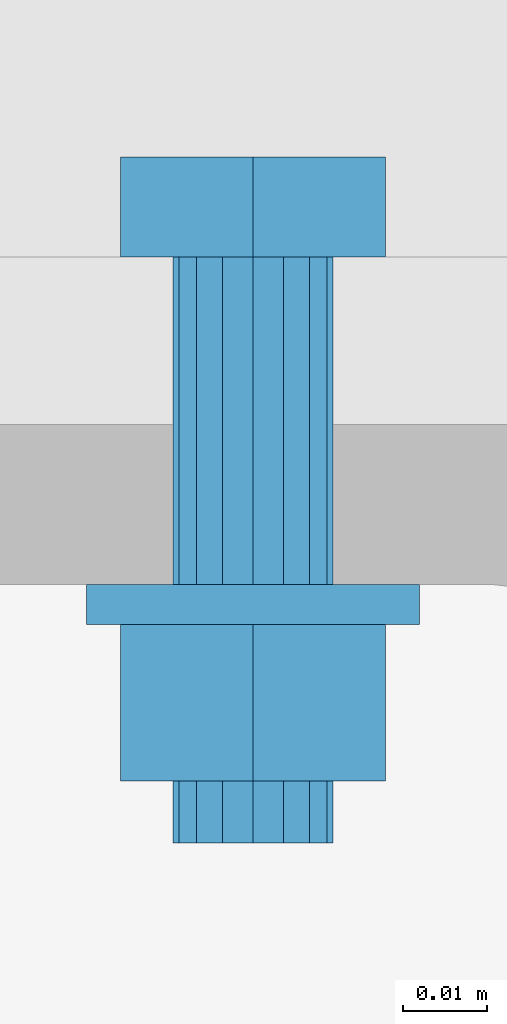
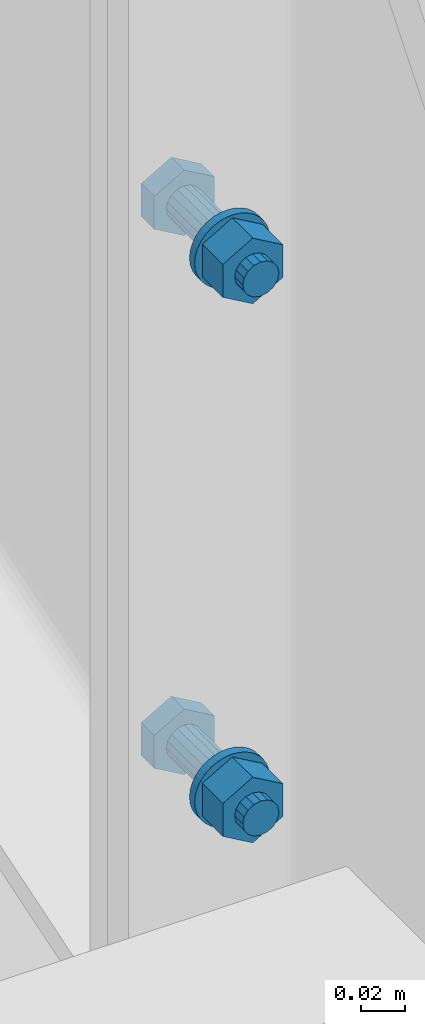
# Not in any storey, part 22 of 51: 2 mechanical fasteners.
"""IFC4 model written with IfcOpenShell, lengths in feet."""

from ifc_helpers import new_model, entity, si_unit, converted_unit, direction, origin, origin_with_axes, place, context, project, spatial, faceted_brep, element, save


model = new_model("IFC4")

# Units and contexts
model_context = context("Model", 3, precision=0.0001, world=origin(), true_north=direction((6.123233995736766e-17, 1.0)))
ifc_project = project(units=[converted_unit("LENGTHUNIT", "FOOT", entity("IfcLengthMeasure", 0.3048), si_unit("LENGTHUNIT", "METRE"), dimensions=[1, 0, 0, 0, 0, 0, 0]), converted_unit("AREAUNIT", "SQUARE INCH", entity("IfcAreaMeasure", 0.0006451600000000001), si_unit("AREAUNIT", "SQUARE_METRE"), dimensions=[2, 0, 0, 0, 0, 0, 0]), converted_unit("PLANEANGLEUNIT", "DEGREE", entity("IfcPlaneAngleMeasure", 0.017453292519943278), si_unit("PLANEANGLEUNIT", "RADIAN"), dimensions=[0, 0, 0, 0, 0, 0, 0]), si_unit("VOLUMEUNIT", "CUBIC_METRE")], contexts=[model_context])

# Site
site_placement = place(None, origin())
site = spatial("IfcSite", under=ifc_project, at=site_placement, Name="Default", CompositionType="ELEMENT")

# Mechanical fasteners
mechanical_fastener_1_placement = place(site_placement, origin_with_axes())
element("IfcMechanicalFastener", 1, at=mechanical_fastener_1_placement, inside=site, ObjectType="Bolt#5", NominalDiameter=0.0625, NominalLength=0.22916666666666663, context=model_context, shape_type="Brep", body=[
    faceted_brep([(60.26863054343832, 6.28730066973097, 17.178057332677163), (60.26863054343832, 6.326363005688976, 17.178057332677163), (60.320501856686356, 6.326363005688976, 17.148109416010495), (60.320501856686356, 6.28730066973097, 17.148109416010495), (60.37237316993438, 6.326363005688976, 17.178057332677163), (60.37237316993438, 6.28730066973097, 17.178057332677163), (60.37237316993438, 6.326363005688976, 17.2379531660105), (60.37237316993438, 6.28730066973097, 17.2379531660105), (60.320501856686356, 6.326363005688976, 17.267901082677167), (60.320501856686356, 6.28730066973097, 17.267901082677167), (60.26863054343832, 6.326363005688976, 17.2379531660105), (60.26863054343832, 6.28730066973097, 17.2379531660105)], [[[0, 1, 2, 3]], [[3, 2, 4, 5]], [[5, 4, 6, 7]], [[7, 6, 8, 9]], [[9, 8, 10, 11]], [[11, 10, 1, 0]], [[4, 2, 1, 10, 8, 6]], [[0, 3, 5, 7, 9, 11]]]),
    faceted_brep([(60.35175185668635, 6.28730066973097, 17.20800524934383), (60.35175185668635, 6.159183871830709, 17.20800524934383), (60.34937309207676, 6.159183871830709, 17.196046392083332), (60.34937309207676, 6.28730066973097, 17.196046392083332), (60.34259894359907, 6.159183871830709, 17.185908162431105), (60.34259894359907, 6.28730066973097, 17.185908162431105), (60.332460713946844, 6.159183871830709, 17.17913401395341), (60.332460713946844, 6.28730066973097, 17.17913401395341), (60.320501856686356, 6.159183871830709, 17.17675524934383), (60.320501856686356, 6.28730066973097, 17.17675524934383), (60.30854299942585, 6.159183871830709, 17.17913401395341), (60.30854299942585, 6.28730066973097, 17.17913401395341), (60.298404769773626, 6.159183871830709, 17.185908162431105), (60.298404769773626, 6.28730066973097, 17.185908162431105), (60.29163062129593, 6.159183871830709, 17.196046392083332), (60.29163062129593, 6.28730066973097, 17.196046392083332), (60.28925185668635, 6.159183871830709, 17.20800524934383), (60.28925185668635, 6.28730066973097, 17.20800524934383), (60.29163062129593, 6.159183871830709, 17.21996410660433), (60.29163062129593, 6.28730066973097, 17.21996410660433), (60.298404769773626, 6.159183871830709, 17.23010233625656), (60.298404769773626, 6.28730066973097, 17.23010233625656), (60.30854299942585, 6.159183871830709, 17.236876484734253), (60.30854299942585, 6.28730066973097, 17.236876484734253), (60.320501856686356, 6.159183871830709, 17.23925524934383), (60.320501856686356, 6.28730066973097, 17.23925524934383), (60.332460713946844, 6.159183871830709, 17.236876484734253), (60.332460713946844, 6.28730066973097, 17.236876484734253), (60.34259894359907, 6.159183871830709, 17.23010233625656), (60.34259894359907, 6.28730066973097, 17.23010233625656), (60.34937309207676, 6.159183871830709, 17.21996410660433), (60.34937309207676, 6.28730066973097, 17.21996410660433)], [[[0, 1, 2, 3]], [[3, 2, 4, 5]], [[5, 4, 6, 7]], [[7, 6, 8, 9]], [[9, 8, 10, 11]], [[11, 10, 12, 13]], [[13, 12, 14, 15]], [[15, 14, 16, 17]], [[17, 16, 18, 19]], [[19, 18, 20, 21]], [[21, 20, 22, 23]], [[23, 22, 24, 25]], [[25, 24, 26, 27]], [[27, 26, 28, 29]], [[29, 28, 30, 31]], [[31, 30, 1, 0]], [[0, 3, 5, 7, 9, 11, 13, 15, 17, 19, 21, 23, 25, 27, 29, 31]], [[1, 30, 28, 26, 24, 22, 20, 18, 16, 14, 12, 10, 8, 6, 4, 2]]]),
    faceted_brep([(60.38560602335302, 6.159183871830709, 17.20800524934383), (60.38560602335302, 6.143558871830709, 17.20800524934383), (60.38435506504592, 6.143558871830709, 17.195304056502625), (60.38435506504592, 6.159183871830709, 17.195304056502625), (60.38065026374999, 6.143558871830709, 17.183090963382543), (60.38065026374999, 6.159183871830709, 17.183090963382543), (60.37463399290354, 6.143558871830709, 17.171835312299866), (60.37463399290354, 6.159183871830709, 17.171835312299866), (60.36653745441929, 6.143558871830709, 17.161969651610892), (60.36653745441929, 6.159183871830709, 17.161969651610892), (60.3566717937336, 6.143558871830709, 17.15387311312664), (60.3566717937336, 6.159183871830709, 17.15387311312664), (60.345416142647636, 6.143558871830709, 17.147856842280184), (60.345416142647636, 6.159183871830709, 17.147856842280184), (60.333203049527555, 6.143558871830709, 17.144152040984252), (60.333203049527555, 6.159183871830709, 17.144152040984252), (60.320501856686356, 6.143558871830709, 17.142901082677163), (60.320501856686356, 6.159183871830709, 17.142901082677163), (60.307800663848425, 6.143558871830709, 17.144152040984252), (60.307800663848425, 6.159183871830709, 17.144152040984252), (60.29558757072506, 6.143558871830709, 17.147856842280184), (60.29558757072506, 6.159183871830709, 17.147856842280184), (60.28433191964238, 6.143558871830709, 17.15387311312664), (60.28433191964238, 6.159183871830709, 17.15387311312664), (60.27446625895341, 6.143558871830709, 17.161969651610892), (60.27446625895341, 6.159183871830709, 17.161969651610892), (60.26636972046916, 6.143558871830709, 17.171835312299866), (60.26636972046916, 6.159183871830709, 17.171835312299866), (60.260353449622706, 6.143558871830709, 17.183090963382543), (60.260353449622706, 6.159183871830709, 17.183090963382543), (60.256648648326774, 6.143558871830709, 17.195304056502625), (60.256648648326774, 6.159183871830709, 17.195304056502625), (60.255397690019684, 6.143558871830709, 17.20800524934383), (60.255397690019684, 6.159183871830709, 17.20800524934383), (60.256648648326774, 6.143558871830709, 17.220706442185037), (60.256648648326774, 6.159183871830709, 17.220706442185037), (60.260353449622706, 6.143558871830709, 17.23291953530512), (60.260353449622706, 6.159183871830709, 17.23291953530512), (60.26636972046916, 6.143558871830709, 17.244175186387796), (60.26636972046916, 6.159183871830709, 17.244175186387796), (60.27446625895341, 6.143558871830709, 17.254040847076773), (60.27446625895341, 6.159183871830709, 17.254040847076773), (60.28433191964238, 6.143558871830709, 17.262137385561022), (60.28433191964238, 6.159183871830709, 17.262137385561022), (60.29558757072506, 6.143558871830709, 17.268153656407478), (60.29558757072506, 6.159183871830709, 17.268153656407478), (60.307800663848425, 6.143558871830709, 17.271858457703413), (60.307800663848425, 6.159183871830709, 17.271858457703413), (60.320501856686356, 6.143558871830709, 17.2731094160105), (60.320501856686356, 6.159183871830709, 17.2731094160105), (60.333203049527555, 6.143558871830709, 17.271858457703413), (60.333203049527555, 6.159183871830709, 17.271858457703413), (60.345416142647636, 6.143558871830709, 17.268153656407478), (60.345416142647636, 6.159183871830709, 17.268153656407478), (60.3566717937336, 6.143558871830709, 17.262137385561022), (60.3566717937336, 6.159183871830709, 17.262137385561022), (60.36653745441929, 6.143558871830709, 17.254040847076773), (60.36653745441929, 6.159183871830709, 17.254040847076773), (60.37463399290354, 6.143558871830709, 17.244175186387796), (60.37463399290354, 6.159183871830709, 17.244175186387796), (60.38065026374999, 6.143558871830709, 17.23291953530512), (60.38065026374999, 6.159183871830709, 17.23291953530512), (60.38435506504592, 6.143558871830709, 17.220706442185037), (60.38435506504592, 6.159183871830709, 17.220706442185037)], [[[0, 1, 2, 3]], [[3, 2, 4, 5]], [[5, 4, 6, 7]], [[7, 6, 8, 9]], [[9, 8, 10, 11]], [[11, 10, 12, 13]], [[13, 12, 14, 15]], [[15, 14, 16, 17]], [[17, 16, 18, 19]], [[19, 18, 20, 21]], [[21, 20, 22, 23]], [[23, 22, 24, 25]], [[25, 24, 26, 27]], [[27, 26, 28, 29]], [[29, 28, 30, 31]], [[31, 30, 32, 33]], [[33, 32, 34, 35]], [[35, 34, 36, 37]], [[37, 36, 38, 39]], [[39, 38, 40, 41]], [[41, 40, 42, 43]], [[43, 42, 44, 45]], [[45, 44, 46, 47]], [[47, 46, 48, 49]], [[49, 48, 50, 51]], [[51, 50, 52, 53]], [[53, 52, 54, 55]], [[55, 54, 56, 57]], [[57, 56, 58, 59]], [[59, 58, 60, 61]], [[61, 60, 62, 63]], [[63, 62, 1, 0]], [[0, 3, 5, 7, 9, 11, 13, 15, 17, 19, 21, 23, 25, 27, 29, 31, 33, 35, 37, 39, 41, 43, 45, 47, 49, 51, 53, 55, 57, 59, 61, 63]], [[1, 62, 60, 58, 56, 54, 52, 50, 48, 46, 44, 42, 40, 38, 36, 34, 32, 30, 28, 26, 24, 22, 20, 18, 16, 14, 12, 10, 8, 6, 4, 2]]]),
    faceted_brep([(60.26863054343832, 6.082361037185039, 17.178057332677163), (60.26863054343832, 6.143558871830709, 17.178057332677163), (60.320501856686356, 6.143558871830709, 17.148109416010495), (60.320501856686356, 6.082361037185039, 17.148109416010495), (60.37237316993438, 6.143558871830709, 17.178057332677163), (60.37237316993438, 6.082361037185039, 17.178057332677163), (60.37237316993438, 6.143558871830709, 17.2379531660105), (60.37237316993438, 6.082361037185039, 17.2379531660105), (60.320501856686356, 6.143558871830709, 17.267901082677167), (60.320501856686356, 6.082361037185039, 17.267901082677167), (60.26863054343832, 6.143558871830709, 17.2379531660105), (60.26863054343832, 6.082361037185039, 17.2379531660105)], [[[0, 1, 2, 3]], [[3, 2, 4, 5]], [[5, 4, 6, 7]], [[7, 6, 8, 9]], [[9, 8, 10, 11]], [[11, 10, 1, 0]], [[4, 2, 1, 10, 8, 6]], [[0, 3, 5, 7, 9, 11]]]),
    faceted_brep([(60.35175185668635, 6.082361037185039, 17.20800524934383), (60.35175185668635, 6.058134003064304, 17.20800524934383), (60.34937309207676, 6.058134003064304, 17.196046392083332), (60.34937309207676, 6.082361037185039, 17.196046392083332), (60.34259894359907, 6.058134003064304, 17.185908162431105), (60.34259894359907, 6.082361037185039, 17.185908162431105), (60.332460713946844, 6.058134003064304, 17.17913401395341), (60.332460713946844, 6.082361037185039, 17.17913401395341), (60.320501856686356, 6.058134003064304, 17.17675524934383), (60.320501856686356, 6.082361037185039, 17.17675524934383), (60.30854299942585, 6.058134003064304, 17.17913401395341), (60.30854299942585, 6.082361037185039, 17.17913401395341), (60.298404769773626, 6.058134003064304, 17.185908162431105), (60.298404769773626, 6.082361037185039, 17.185908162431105), (60.29163062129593, 6.058134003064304, 17.196046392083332), (60.29163062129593, 6.082361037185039, 17.196046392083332), (60.28925185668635, 6.058134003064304, 17.20800524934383), (60.28925185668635, 6.082361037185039, 17.20800524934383), (60.29163062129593, 6.058134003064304, 17.21996410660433), (60.29163062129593, 6.082361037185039, 17.21996410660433), (60.298404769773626, 6.058134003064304, 17.23010233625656), (60.298404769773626, 6.082361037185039, 17.23010233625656), (60.30854299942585, 6.058134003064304, 17.236876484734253), (60.30854299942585, 6.082361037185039, 17.236876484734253), (60.320501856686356, 6.058134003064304, 17.23925524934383), (60.320501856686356, 6.082361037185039, 17.23925524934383), (60.332460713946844, 6.058134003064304, 17.236876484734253), (60.332460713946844, 6.082361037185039, 17.236876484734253), (60.34259894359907, 6.058134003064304, 17.23010233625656), (60.34259894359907, 6.082361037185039, 17.23010233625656), (60.34937309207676, 6.058134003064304, 17.21996410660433), (60.34937309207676, 6.082361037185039, 17.21996410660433)], [[[0, 1, 2, 3]], [[3, 2, 4, 5]], [[5, 4, 6, 7]], [[7, 6, 8, 9]], [[9, 8, 10, 11]], [[11, 10, 12, 13]], [[13, 12, 14, 15]], [[15, 14, 16, 17]], [[17, 16, 18, 19]], [[19, 18, 20, 21]], [[21, 20, 22, 23]], [[23, 22, 24, 25]], [[25, 24, 26, 27]], [[27, 26, 28, 29]], [[29, 28, 30, 31]], [[31, 30, 1, 0]], [[0, 3, 5, 7, 9, 11, 13, 15, 17, 19, 21, 23, 25, 27, 29, 31]], [[1, 30, 28, 26, 24, 22, 20, 18, 16, 14, 12, 10, 8, 6, 4, 2]]]),
])
mechanical_fastener_2_placement = place(site_placement, origin_with_axes())
element("IfcMechanicalFastener", 2, at=mechanical_fastener_2_placement, inside=site, ObjectType="Bolt#6", NominalDiameter=0.0625, NominalLength=0.22916666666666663, context=model_context, shape_type="Brep", body=[
    faceted_brep([(60.26863054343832, 6.28730066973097, 16.193805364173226), (60.26863054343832, 6.326363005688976, 16.193805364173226), (60.320501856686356, 6.326363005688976, 16.163857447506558), (60.320501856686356, 6.28730066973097, 16.163857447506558), (60.37237316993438, 6.326363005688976, 16.193805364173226), (60.37237316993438, 6.28730066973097, 16.193805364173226), (60.37237316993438, 6.326363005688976, 16.25370119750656), (60.37237316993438, 6.28730066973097, 16.25370119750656), (60.320501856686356, 6.326363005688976, 16.28364911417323), (60.320501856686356, 6.28730066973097, 16.28364911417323), (60.26863054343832, 6.326363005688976, 16.25370119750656), (60.26863054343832, 6.28730066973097, 16.25370119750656)], [[[0, 1, 2, 3]], [[3, 2, 4, 5]], [[5, 4, 6, 7]], [[7, 6, 8, 9]], [[9, 8, 10, 11]], [[11, 10, 1, 0]], [[4, 2, 1, 10, 8, 6]], [[0, 3, 5, 7, 9, 11]]]),
    faceted_brep([(60.35175185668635, 6.28730066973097, 16.223753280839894), (60.35175185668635, 6.159183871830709, 16.223753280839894), (60.34937309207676, 6.159183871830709, 16.211794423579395), (60.34937309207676, 6.28730066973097, 16.211794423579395), (60.34259894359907, 6.159183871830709, 16.201656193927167), (60.34259894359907, 6.28730066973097, 16.201656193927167), (60.332460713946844, 6.159183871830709, 16.19488204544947), (60.332460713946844, 6.28730066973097, 16.19488204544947), (60.320501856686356, 6.159183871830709, 16.192503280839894), (60.320501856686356, 6.28730066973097, 16.192503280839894), (60.30854299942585, 6.159183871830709, 16.19488204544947), (60.30854299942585, 6.28730066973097, 16.19488204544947), (60.298404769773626, 6.159183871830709, 16.201656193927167), (60.298404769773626, 6.28730066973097, 16.201656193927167), (60.29163062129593, 6.159183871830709, 16.211794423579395), (60.29163062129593, 6.28730066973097, 16.211794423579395), (60.28925185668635, 6.159183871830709, 16.223753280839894), (60.28925185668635, 6.28730066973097, 16.223753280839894), (60.29163062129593, 6.159183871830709, 16.235712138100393), (60.29163062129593, 6.28730066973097, 16.235712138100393), (60.298404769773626, 6.159183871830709, 16.245850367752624), (60.298404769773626, 6.28730066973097, 16.245850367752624), (60.30854299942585, 6.159183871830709, 16.252624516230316), (60.30854299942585, 6.28730066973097, 16.252624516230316), (60.320501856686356, 6.159183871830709, 16.255003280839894), (60.320501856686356, 6.28730066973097, 16.255003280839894), (60.332460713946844, 6.159183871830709, 16.252624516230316), (60.332460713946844, 6.28730066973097, 16.252624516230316), (60.34259894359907, 6.159183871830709, 16.245850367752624), (60.34259894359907, 6.28730066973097, 16.245850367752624), (60.34937309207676, 6.159183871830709, 16.235712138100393), (60.34937309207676, 6.28730066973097, 16.235712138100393)], [[[0, 1, 2, 3]], [[3, 2, 4, 5]], [[5, 4, 6, 7]], [[7, 6, 8, 9]], [[9, 8, 10, 11]], [[11, 10, 12, 13]], [[13, 12, 14, 15]], [[15, 14, 16, 17]], [[17, 16, 18, 19]], [[19, 18, 20, 21]], [[21, 20, 22, 23]], [[23, 22, 24, 25]], [[25, 24, 26, 27]], [[27, 26, 28, 29]], [[29, 28, 30, 31]], [[31, 30, 1, 0]], [[0, 3, 5, 7, 9, 11, 13, 15, 17, 19, 21, 23, 25, 27, 29, 31]], [[1, 30, 28, 26, 24, 22, 20, 18, 16, 14, 12, 10, 8, 6, 4, 2]]]),
    faceted_brep([(60.38560602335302, 6.159183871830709, 16.223753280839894), (60.38560602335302, 6.143558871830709, 16.223753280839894), (60.38435506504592, 6.143558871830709, 16.211052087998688), (60.38435506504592, 6.159183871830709, 16.211052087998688), (60.38065026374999, 6.143558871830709, 16.198838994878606), (60.38065026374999, 6.159183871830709, 16.198838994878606), (60.37463399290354, 6.143558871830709, 16.18758334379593), (60.37463399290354, 6.159183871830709, 16.18758334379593), (60.36653745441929, 6.143558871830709, 16.177717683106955), (60.36653745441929, 6.159183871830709, 16.177717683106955), (60.3566717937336, 6.143558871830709, 16.169621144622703), (60.3566717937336, 6.159183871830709, 16.169621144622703), (60.345416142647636, 6.143558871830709, 16.163604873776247), (60.345416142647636, 6.159183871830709, 16.163604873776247), (60.333203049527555, 6.143558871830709, 16.159900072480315), (60.333203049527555, 6.159183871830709, 16.159900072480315), (60.320501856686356, 6.143558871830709, 16.158649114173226), (60.320501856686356, 6.159183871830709, 16.158649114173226), (60.307800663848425, 6.143558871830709, 16.159900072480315), (60.307800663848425, 6.159183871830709, 16.159900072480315), (60.29558757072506, 6.143558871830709, 16.163604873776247), (60.29558757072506, 6.159183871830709, 16.163604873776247), (60.28433191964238, 6.143558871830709, 16.169621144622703), (60.28433191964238, 6.159183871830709, 16.169621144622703), (60.27446625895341, 6.143558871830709, 16.177717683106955), (60.27446625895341, 6.159183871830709, 16.177717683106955), (60.26636972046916, 6.143558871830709, 16.18758334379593), (60.26636972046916, 6.159183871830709, 16.18758334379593), (60.260353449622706, 6.143558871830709, 16.198838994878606), (60.260353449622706, 6.159183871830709, 16.198838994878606), (60.256648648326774, 6.143558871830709, 16.211052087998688), (60.256648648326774, 6.159183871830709, 16.211052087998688), (60.255397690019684, 6.143558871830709, 16.223753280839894), (60.255397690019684, 6.159183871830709, 16.223753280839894), (60.256648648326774, 6.143558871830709, 16.2364544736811), (60.256648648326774, 6.159183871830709, 16.2364544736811), (60.260353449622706, 6.143558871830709, 16.24866756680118), (60.260353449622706, 6.159183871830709, 16.24866756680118), (60.26636972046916, 6.143558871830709, 16.25992321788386), (60.26636972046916, 6.159183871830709, 16.25992321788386), (60.27446625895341, 6.143558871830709, 16.269788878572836), (60.27446625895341, 6.159183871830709, 16.269788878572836), (60.28433191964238, 6.143558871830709, 16.277885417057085), (60.28433191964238, 6.159183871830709, 16.277885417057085), (60.29558757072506, 6.143558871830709, 16.28390168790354), (60.29558757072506, 6.159183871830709, 16.28390168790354), (60.307800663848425, 6.143558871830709, 16.287606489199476), (60.307800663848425, 6.159183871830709, 16.287606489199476), (60.320501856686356, 6.143558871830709, 16.28885744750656), (60.320501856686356, 6.159183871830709, 16.28885744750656), (60.333203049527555, 6.143558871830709, 16.287606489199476), (60.333203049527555, 6.159183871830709, 16.287606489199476), (60.345416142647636, 6.143558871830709, 16.28390168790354), (60.345416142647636, 6.159183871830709, 16.28390168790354), (60.3566717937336, 6.143558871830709, 16.277885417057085), (60.3566717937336, 6.159183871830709, 16.277885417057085), (60.36653745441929, 6.143558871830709, 16.269788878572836), (60.36653745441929, 6.159183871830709, 16.269788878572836), (60.37463399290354, 6.143558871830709, 16.25992321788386), (60.37463399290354, 6.159183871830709, 16.25992321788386), (60.38065026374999, 6.143558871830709, 16.24866756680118), (60.38065026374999, 6.159183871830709, 16.24866756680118), (60.38435506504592, 6.143558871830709, 16.2364544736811), (60.38435506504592, 6.159183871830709, 16.2364544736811)], [[[0, 1, 2, 3]], [[3, 2, 4, 5]], [[5, 4, 6, 7]], [[7, 6, 8, 9]], [[9, 8, 10, 11]], [[11, 10, 12, 13]], [[13, 12, 14, 15]], [[15, 14, 16, 17]], [[17, 16, 18, 19]], [[19, 18, 20, 21]], [[21, 20, 22, 23]], [[23, 22, 24, 25]], [[25, 24, 26, 27]], [[27, 26, 28, 29]], [[29, 28, 30, 31]], [[31, 30, 32, 33]], [[33, 32, 34, 35]], [[35, 34, 36, 37]], [[37, 36, 38, 39]], [[39, 38, 40, 41]], [[41, 40, 42, 43]], [[43, 42, 44, 45]], [[45, 44, 46, 47]], [[47, 46, 48, 49]], [[49, 48, 50, 51]], [[51, 50, 52, 53]], [[53, 52, 54, 55]], [[55, 54, 56, 57]], [[57, 56, 58, 59]], [[59, 58, 60, 61]], [[61, 60, 62, 63]], [[63, 62, 1, 0]], [[0, 3, 5, 7, 9, 11, 13, 15, 17, 19, 21, 23, 25, 27, 29, 31, 33, 35, 37, 39, 41, 43, 45, 47, 49, 51, 53, 55, 57, 59, 61, 63]], [[1, 62, 60, 58, 56, 54, 52, 50, 48, 46, 44, 42, 40, 38, 36, 34, 32, 30, 28, 26, 24, 22, 20, 18, 16, 14, 12, 10, 8, 6, 4, 2]]]),
    faceted_brep([(60.26863054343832, 6.082361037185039, 16.193805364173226), (60.26863054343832, 6.143558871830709, 16.193805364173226), (60.320501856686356, 6.143558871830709, 16.163857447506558), (60.320501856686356, 6.082361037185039, 16.163857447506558), (60.37237316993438, 6.143558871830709, 16.193805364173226), (60.37237316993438, 6.082361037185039, 16.193805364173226), (60.37237316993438, 6.143558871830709, 16.25370119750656), (60.37237316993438, 6.082361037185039, 16.25370119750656), (60.320501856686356, 6.143558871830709, 16.28364911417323), (60.320501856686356, 6.082361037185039, 16.28364911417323), (60.26863054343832, 6.143558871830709, 16.25370119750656), (60.26863054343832, 6.082361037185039, 16.25370119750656)], [[[0, 1, 2, 3]], [[3, 2, 4, 5]], [[5, 4, 6, 7]], [[7, 6, 8, 9]], [[9, 8, 10, 11]], [[11, 10, 1, 0]], [[4, 2, 1, 10, 8, 6]], [[0, 3, 5, 7, 9, 11]]]),
    faceted_brep([(60.35175185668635, 6.082361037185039, 16.223753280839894), (60.35175185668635, 6.058134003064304, 16.223753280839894), (60.34937309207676, 6.058134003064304, 16.211794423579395), (60.34937309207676, 6.082361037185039, 16.211794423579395), (60.34259894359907, 6.058134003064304, 16.201656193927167), (60.34259894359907, 6.082361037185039, 16.201656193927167), (60.332460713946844, 6.058134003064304, 16.19488204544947), (60.332460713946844, 6.082361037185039, 16.19488204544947), (60.320501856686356, 6.058134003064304, 16.192503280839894), (60.320501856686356, 6.082361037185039, 16.192503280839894), (60.30854299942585, 6.058134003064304, 16.19488204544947), (60.30854299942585, 6.082361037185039, 16.19488204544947), (60.298404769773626, 6.058134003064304, 16.201656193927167), (60.298404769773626, 6.082361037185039, 16.201656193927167), (60.29163062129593, 6.058134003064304, 16.211794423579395), (60.29163062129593, 6.082361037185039, 16.211794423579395), (60.28925185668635, 6.058134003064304, 16.223753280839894), (60.28925185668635, 6.082361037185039, 16.223753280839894), (60.29163062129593, 6.058134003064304, 16.235712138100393), (60.29163062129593, 6.082361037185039, 16.235712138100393), (60.298404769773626, 6.058134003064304, 16.245850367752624), (60.298404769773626, 6.082361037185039, 16.245850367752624), (60.30854299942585, 6.058134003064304, 16.252624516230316), (60.30854299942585, 6.082361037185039, 16.252624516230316), (60.320501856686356, 6.058134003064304, 16.255003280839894), (60.320501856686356, 6.082361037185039, 16.255003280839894), (60.332460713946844, 6.058134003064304, 16.252624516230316), (60.332460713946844, 6.082361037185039, 16.252624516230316), (60.34259894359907, 6.058134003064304, 16.245850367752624), (60.34259894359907, 6.082361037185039, 16.245850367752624), (60.34937309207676, 6.058134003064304, 16.235712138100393), (60.34937309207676, 6.082361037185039, 16.235712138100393)], [[[0, 1, 2, 3]], [[3, 2, 4, 5]], [[5, 4, 6, 7]], [[7, 6, 8, 9]], [[9, 8, 10, 11]], [[11, 10, 12, 13]], [[13, 12, 14, 15]], [[15, 14, 16, 17]], [[17, 16, 18, 19]], [[19, 18, 20, 21]], [[21, 20, 22, 23]], [[23, 22, 24, 25]], [[25, 24, 26, 27]], [[27, 26, 28, 29]], [[29, 28, 30, 31]], [[31, 30, 1, 0]], [[0, 3, 5, 7, 9, 11, 13, 15, 17, 19, 21, 23, 25, 27, 29, 31]], [[1, 30, 28, 26, 24, 22, 20, 18, 16, 14, 12, 10, 8, 6, 4, 2]]]),
])

save(model, "model.ifc")
